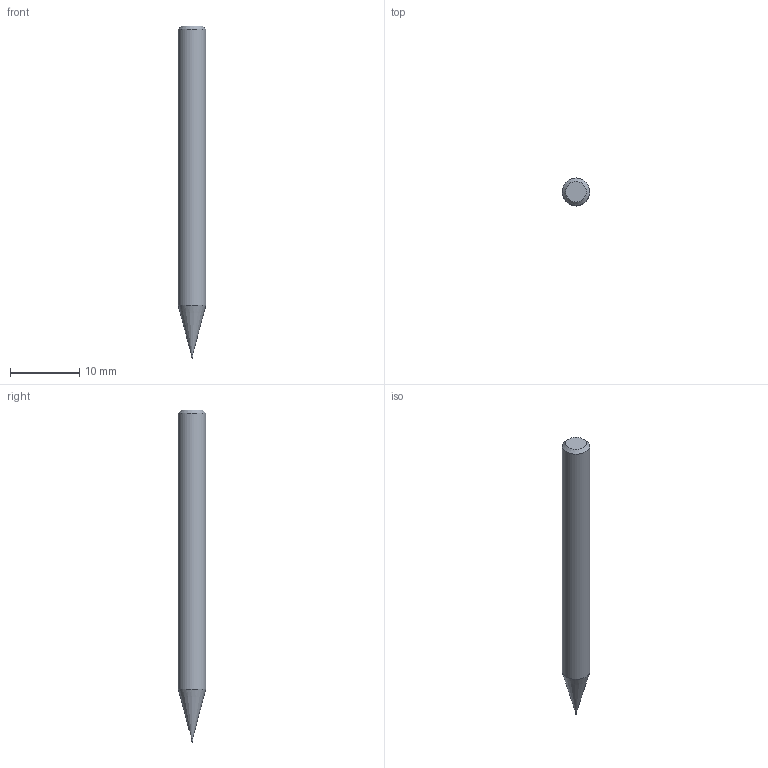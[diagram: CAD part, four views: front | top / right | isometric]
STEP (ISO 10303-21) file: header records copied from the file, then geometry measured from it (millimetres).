
FILE_DESCRIPTION((''),'2;1');
FILE_NAME('C:\Users\nsx150\AppData\Local\Temp\Mastercam 2021\ZQ9VQTH2U1\TEMP.step','2021-10-21T11:06:15',(''),(''),'STEP Write','Mastercam 2021 ... CNC Software, Inc.','');
FILE_SCHEMA(('AUTOMOTIVE_DESIGN'));
Length unit declared in the file: millimetre
Products named in the file (1): None
Bounding box: 4 x 4 x 48 mm (x, y, z)
Volume: 537.2 mm3; surface area: 564.7 mm2
Topology: 2 solids, 2 shells, 8 faces, 12 edges, 7 vertices
Faces by surface type: plane 3, cone 2, cylinder 2, sphere 1
Full cylindrical faces by diameter (mm): 0.18 x1, 4 x1
Entity records: 190 total; most frequent: DIRECTION 32, CARTESIAN_POINT 22, AXIS2_PLACEMENT_3D 16, ORIENTED_EDGE 12, EDGE_LOOP 12, STYLED_ITEM 11, ADVANCED_FACE 8, VERTEX_POINT 6
